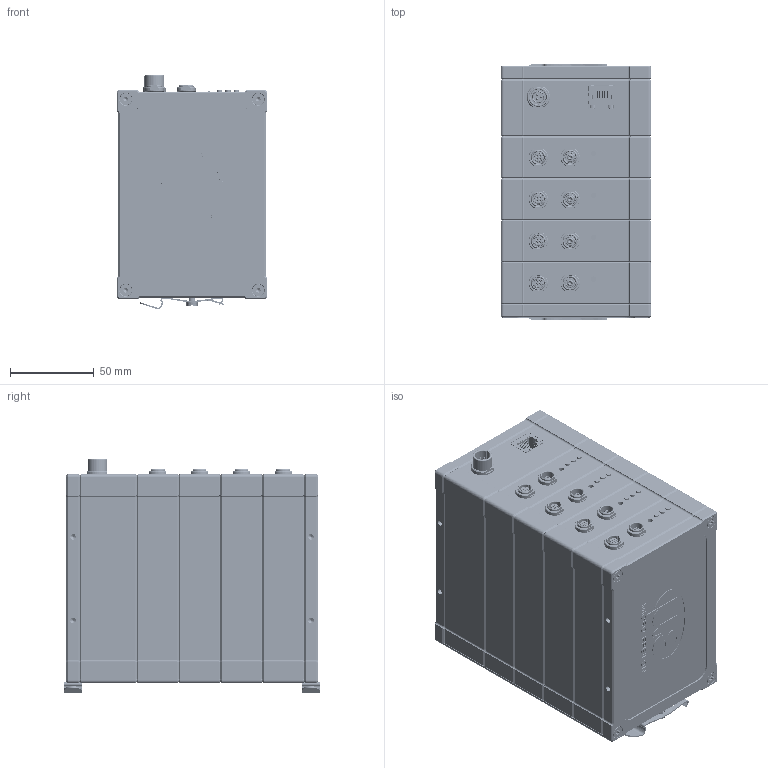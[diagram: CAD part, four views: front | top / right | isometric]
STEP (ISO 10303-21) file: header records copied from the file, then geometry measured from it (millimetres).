
FILE_DESCRIPTION((''),'2;1');
FILE_NAME('0000051456_ASM','2013-01-15T',('11000065'),(''),'PRO/ENGINEER BY PARAMETRIC TECHNOLOGY CORPORATION, 2012360','PRO/ENGINEER BY PARAMETRIC TECHNOLOGY CORPORATION, 2012360','');
FILE_SCHEMA(('AUTOMOTIVE_DESIGN { 1 0 10303 214 1 1 1 1 }'));
Products named in the file (15): 0000030906; 0000038141; 0000012139; GH1L0C-P03RP00-0000; C-5-6605425-1-E-3D; 0000047983_ASM; 0000030905; 0000047985; G50L0C-P04QF00-0000; 0323086; 0000047984_ASM; 0000038146; 0000042844; 0000013467; 0000051456_ASM
Assembly tree (28 placements, depth 3):
  0000051456_ASM
    0000047983_ASM
      0000030906
      0000038141
      0000012139  x4
      GH1L0C-P03RP00-0000
      C-5-6605425-1-E-3D
    0000047984_ASM  x4
      0000030905
      0000047985
      G50L0C-P04QF00-0000
      0323086
    0000038146
    0000042844  x2
    0000013467  x2
    0000012139  x4
Bounding box: 90 x 153 x 139.79 mm (x, y, z)
Volume: 331665.7 mm3; surface area: 231271.2 mm2
Topology: 49 solids, 49 shells, 5664 faces, 15370 edges, 9974 vertices
Faces by surface type: plane 2168, cone 1544, cylinder 1484, torus 376, extrusion 70, bspline 12, sphere 10
Entity records: 115945 total; most frequent: CARTESIAN_POINT 24712, ORIENTED_EDGE 14036, DIRECTION 13645, EDGE_CURVE 7018, PRESENTATION_STYLE_ASSIGNMENT 5681, STYLED_ITEM 5620, CURVE_STYLE 5326, AXIS2_PLACEMENT_3D 4968
